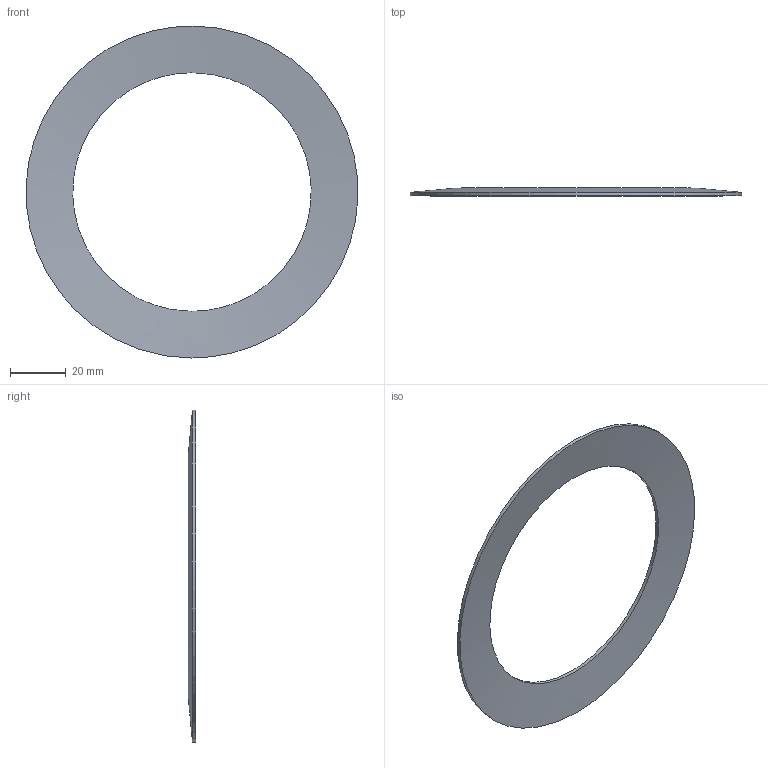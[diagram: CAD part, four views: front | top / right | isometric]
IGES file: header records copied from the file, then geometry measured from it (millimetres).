
Global section: file name: ST.1190.0855.0125; native system: Autodesk Inventor 2026; preprocessor: unknown; author: J. Iwanek; date: 20260918.103908; units: millimetre
Bounding box: 118.9 x 2.8 x 119 mm (x, y, z)
Volume: 6756.7 mm3; surface area: 11617.5 mm2
Topology: 1 solids, 1 shells, 4 faces, 12 edges, 8 vertices
Faces by surface type: bspline 4
